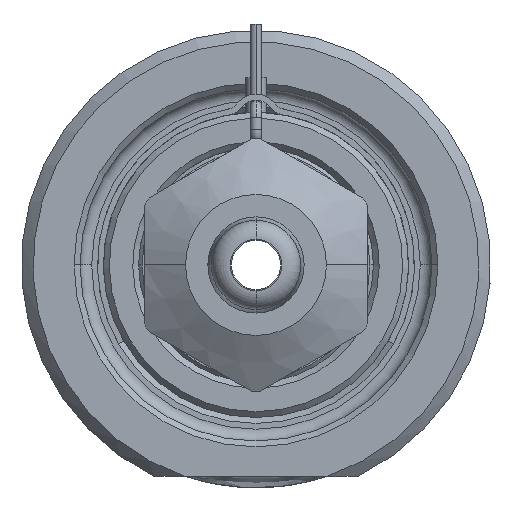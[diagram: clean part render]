
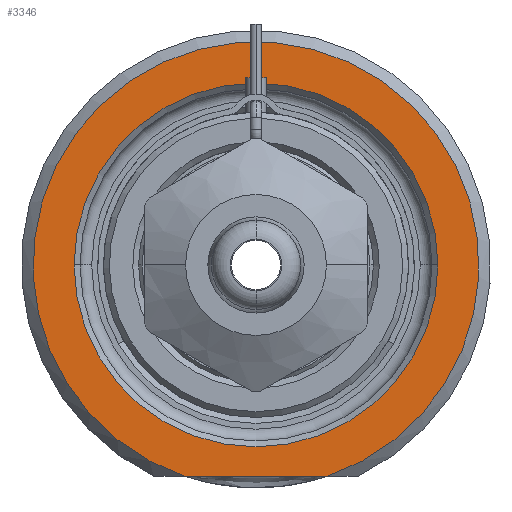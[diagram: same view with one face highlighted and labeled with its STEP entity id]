
A CAD part, front view. The second image highlights one B-rep face of the part: STEP entity #3346.
In plain terms, the highlighted planar face has unit normal (0, -1, 0).
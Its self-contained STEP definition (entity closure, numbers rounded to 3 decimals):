
#1=DIRECTION('',(1.,0.,0.));
#2=VECTOR('',#1,12.166);
#3=CARTESIAN_POINT('',(-6.083,0.,-18.));
#4=LINE('',#3,#2);
#5=CARTESIAN_POINT('',(0.,0.,0.));
#6=DIRECTION('',(0.,1.,0.));
#7=DIRECTION('',(-1.,0.,0.));
#8=AXIS2_PLACEMENT_3D('',#5,#6,#7);
#10=CARTESIAN_POINT('',(0.,0.,0.));
#11=DIRECTION('',(0.,1.,0.));
#12=DIRECTION('',(1.,0.,0.));
#13=AXIS2_PLACEMENT_3D('',#10,#11,#12);
#264=CARTESIAN_POINT('',(0.,0.,0.));
#265=DIRECTION('',(0.,-1.,0.));
#266=DIRECTION('',(0.32,0.,-0.947));
#267=AXIS2_PLACEMENT_3D('',#264,#265,#266);
#2802=CARTESIAN_POINT('',(-15.5,0.,0.));
#2803=CARTESIAN_POINT('',(15.5,0.,0.));
#2804=VERTEX_POINT('',#2802);
#2805=VERTEX_POINT('',#2803);
#2860=CARTESIAN_POINT('',(-6.083,0.,-18.));
#2861=CARTESIAN_POINT('',(6.083,0.,-18.));
#2862=VERTEX_POINT('',#2860);
#2863=VERTEX_POINT('',#2861);
#3329=CARTESIAN_POINT('',(0.,0.,0.));
#3330=DIRECTION('',(0.,-1.,0.));
#3331=DIRECTION('',(1.,0.,0.));
#3332=AXIS2_PLACEMENT_3D('',#3329,#3330,#3331);
#3333=PLANE('',#3332);
#3335=ORIENTED_EDGE('',*,*,#3334,.F.);
#3337=ORIENTED_EDGE('',*,*,#3336,.F.);
#3338=EDGE_LOOP('',(#3335,#3337));
#3339=FACE_OUTER_BOUND('',#3338,.F.);
#3341=ORIENTED_EDGE('',*,*,#3340,.F.);
#3343=ORIENTED_EDGE('',*,*,#3342,.F.);
#3344=EDGE_LOOP('',(#3341,#3343));
#3345=FACE_BOUND('',#3344,.F.);
#3346=ADVANCED_FACE('',(#3339,#3345),#3333,.T.);
#9=CIRCLE('',#8,15.5);
#14=CIRCLE('',#13,15.5);
#268=CIRCLE('',#267,19.);
#3334=EDGE_CURVE('',#2862,#2863,#4,.T.);
#3336=EDGE_CURVE('',#2863,#2862,#268,.T.);
#3340=EDGE_CURVE('',#2804,#2805,#9,.T.);
#3342=EDGE_CURVE('',#2805,#2804,#14,.T.);
